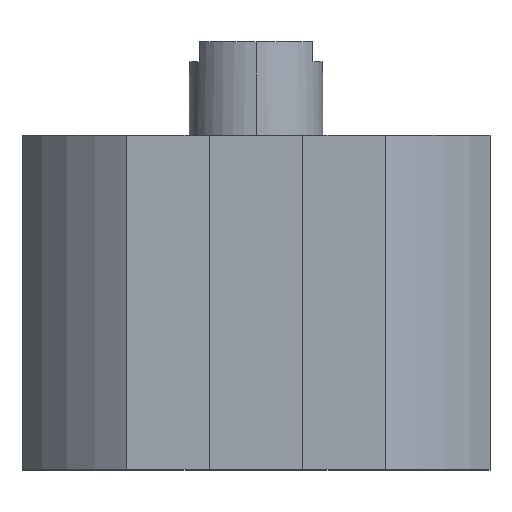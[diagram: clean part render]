
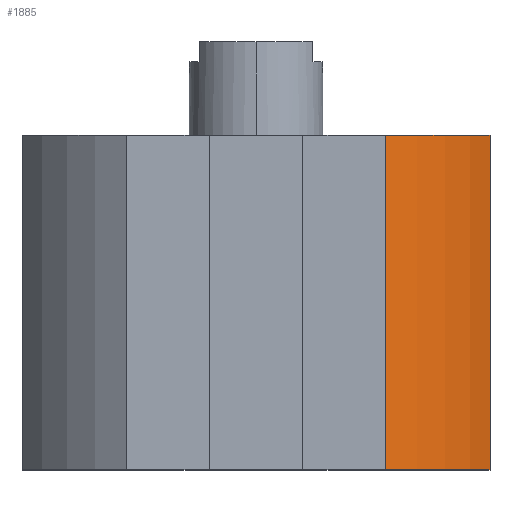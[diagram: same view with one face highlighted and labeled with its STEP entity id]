
A CAD part, top view. The second image highlights one B-rep face of the part: STEP entity #1885.
In plain terms, the highlighted cylindrical face has radius 40 mm (diameter 80 mm), a partial arc.
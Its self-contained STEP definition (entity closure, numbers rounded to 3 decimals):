
#27 = CARTESIAN_POINT ( 'NONE',  ( 35., -50., 19.365 ) ) ;
#65 = AXIS2_PLACEMENT_3D ( 'NONE', #2929, #3168, #139 ) ;
#139 = DIRECTION ( 'NONE',  ( 0., 0., 1. ) ) ;
#222 = VERTEX_POINT ( 'NONE', #27 ) ;
#413 = DIRECTION ( 'NONE',  ( 0., 0., 1. ) ) ;
#625 = VERTEX_POINT ( 'NONE', #1612 ) ;
#643 = EDGE_CURVE ( 'NONE', #222, #2698, #2367, .T. ) ;
#655 = CYLINDRICAL_SURFACE ( 'NONE', #2480, 40. ) ;
#667 = DIRECTION ( 'NONE',  ( 0., 1., 0. ) ) ;
#775 = EDGE_LOOP ( 'NONE', ( #1364, #3032, #2254, #1244 ) ) ;
#801 = CARTESIAN_POINT ( 'NONE',  ( 0., -50., 0. ) ) ;
#807 = FACE_OUTER_BOUND ( 'NONE', #775, .T. ) ;
#872 = DIRECTION ( 'NONE',  ( 0., 1., 0. ) ) ;
#892 = VECTOR ( 'NONE', #872, 1000. ) ;
#1161 = CARTESIAN_POINT ( 'NONE',  ( 35., 0., 19.365 ) ) ;
#1167 = DIRECTION ( 'NONE',  ( 0., 1., 0. ) ) ;
#1203 = EDGE_CURVE ( 'NONE', #1847, #2698, #2249, .T. ) ;
#1244 = ORIENTED_EDGE ( 'NONE', *, *, #643, .T. ) ;
#1314 = CIRCLE ( 'NONE', #65, 40. ) ;
#1364 = ORIENTED_EDGE ( 'NONE', *, *, #1203, .F. ) ;
#1365 = DIRECTION ( 'NONE',  ( 0., 0., 1. ) ) ;
#1612 = CARTESIAN_POINT ( 'NONE',  ( 19.365, -50., 35. ) ) ;
#1663 = LINE ( 'NONE', #2980, #2109 ) ;
#1847 = VERTEX_POINT ( 'NONE', #2328 ) ;
#1885 = ADVANCED_FACE ( 'NONE', ( #807 ), #655, .T. ) ;
#2040 = AXIS2_PLACEMENT_3D ( 'NONE', #2450, #1167, #413 ) ;
#2109 = VECTOR ( 'NONE', #667, 1000. ) ;
#2249 = CIRCLE ( 'NONE', #2040, 40. ) ;
#2254 = ORIENTED_EDGE ( 'NONE', *, *, #3029, .T. ) ;
#2328 = CARTESIAN_POINT ( 'NONE',  ( 19.365, 0., 35. ) ) ;
#2367 = LINE ( 'NONE', #3134, #892 ) ;
#2450 = CARTESIAN_POINT ( 'NONE',  ( 0., 0., 0. ) ) ;
#2480 = AXIS2_PLACEMENT_3D ( 'NONE', #801, #2859, #1365 ) ;
#2698 = VERTEX_POINT ( 'NONE', #1161 ) ;
#2759 = EDGE_CURVE ( 'NONE', #625, #1847, #1663, .T. ) ;
#2859 = DIRECTION ( 'NONE',  ( 0., 1., 0. ) ) ;
#2929 = CARTESIAN_POINT ( 'NONE',  ( 0., -50., 0. ) ) ;
#2980 = CARTESIAN_POINT ( 'NONE',  ( 19.365, -50., 35. ) ) ;
#3029 = EDGE_CURVE ( 'NONE', #625, #222, #1314, .T. ) ;
#3032 = ORIENTED_EDGE ( 'NONE', *, *, #2759, .F. ) ;
#3134 = CARTESIAN_POINT ( 'NONE',  ( 35., -50., 19.365 ) ) ;
#3168 = DIRECTION ( 'NONE',  ( 0., 1., 0. ) ) ;
